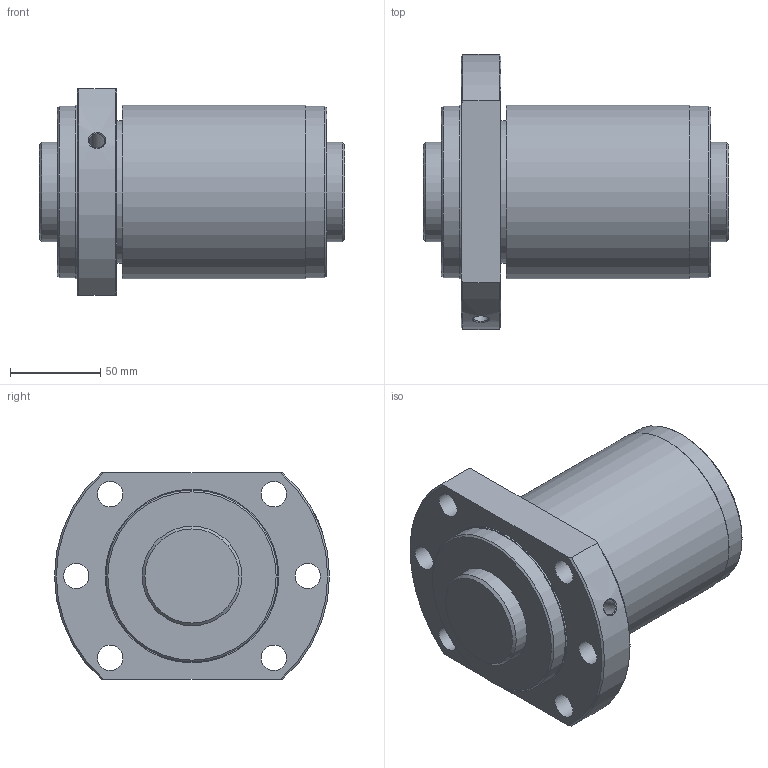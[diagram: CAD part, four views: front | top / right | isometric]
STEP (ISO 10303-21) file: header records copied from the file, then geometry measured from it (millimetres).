
FILE_DESCRIPTION(/* description */ ('STEP AP203'),/* implementation_level */ '2;1');
FILE_NAME(/* name */ 'SBK5530-7.6RRG0+169LC0(0000)',/* time_stamp */ '2024-05-28T11:20:49+02:00',/* author */ ('License CC BY-ND 4.0'),/* organization */ ('CADENAS'),/* preprocessor_version */ 'ST-DEVELOPER v19.3',/* originating_system */ 'PARTsolutions',/* authorisation */ ' ');
FILE_SCHEMA (('CONFIG_CONTROL_DESIGN'));
Length unit declared in the file: millimetre
Products named in the file (3): SBK5530-7.6RRG0+169LC0(0000); NRR000SBK5530-7.60Shaft; NRR000SBK5530-7.6Nut
Assembly tree (2 placements, depth 2):
  SBK5530-7.6RRG0+169LC0(0000)
    NRR000SBK5530-7.60Shaft
    NRR000SBK5530-7.6Nut
Bounding box: 169 x 152 x 114 mm (x, y, z)
Volume: 1274710.9 mm3; surface area: 142849.2 mm2
Topology: 2 solids, 2 shells, 37 faces, 80 edges, 52 vertices
Faces by surface type: cylinder 16, plane 11, cone 10
Full cylindrical faces by diameter (mm): 8.566 x1, 14 x6, 55 x2, 78.528 x1, 95 x2, 96 x2
Entity records: 1020 total; most frequent: CARTESIAN_POINT 183, DIRECTION 168, ORIENTED_EDGE 114, AXIS2_PLACEMENT_3D 80, FACE_BOUND 77, EDGE_LOOP 76, EDGE_CURVE 57, VERTEX_POINT 50
